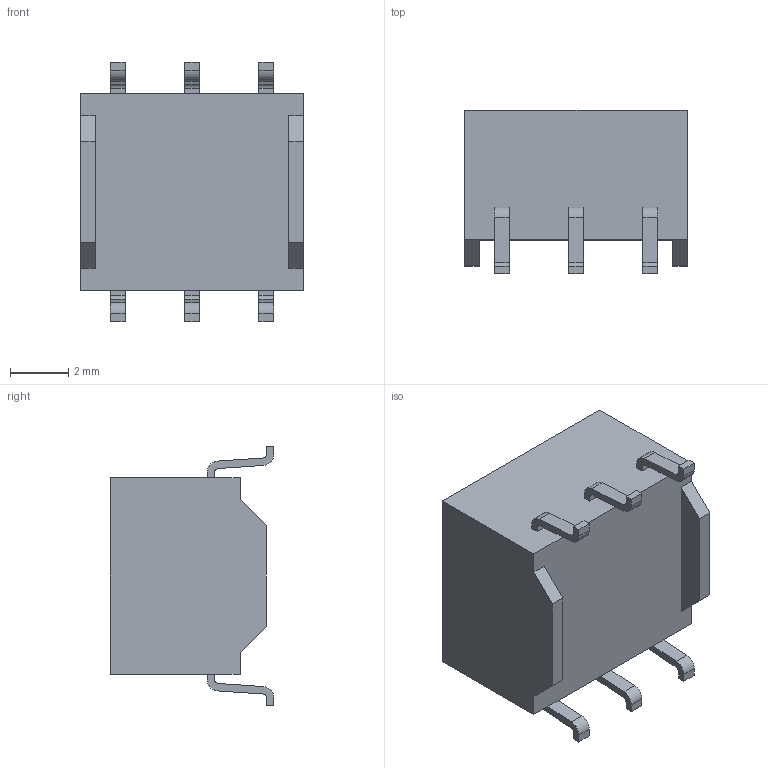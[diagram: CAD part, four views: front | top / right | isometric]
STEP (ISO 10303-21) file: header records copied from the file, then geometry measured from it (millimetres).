
FILE_DESCRIPTION (( 'STEP AP214' ), '1' );
FILE_NAME ('HMU1228NL_3D.STEP', '2018-03-05T00:10:15', ( '' ), ( '' ), 'SwSTEP 2.0', 'SolidWorks 2015', '' );
FILE_SCHEMA (( 'AUTOMOTIVE_DESIGN' ));
Length unit declared in the file: millimetre
Products named in the file (1): HMU1228NL_3D
Bounding box: 7.62 x 5.59 x 8.89 mm (x, y, z)
Volume: 233.7 mm3; surface area: 271.7 mm2
Topology: 1 solids, 1 shells, 95 faces, 258 edges, 172 vertices
Faces by surface type: plane 69, cylinder 26
Entity records: 3018 total; most frequent: CARTESIAN_POINT 526, ORIENTED_EDGE 516, DIRECTION 502, EDGE_CURVE 258, LINE 206, VECTOR 206, VERTEX_POINT 172, AXIS2_PLACEMENT_3D 148
